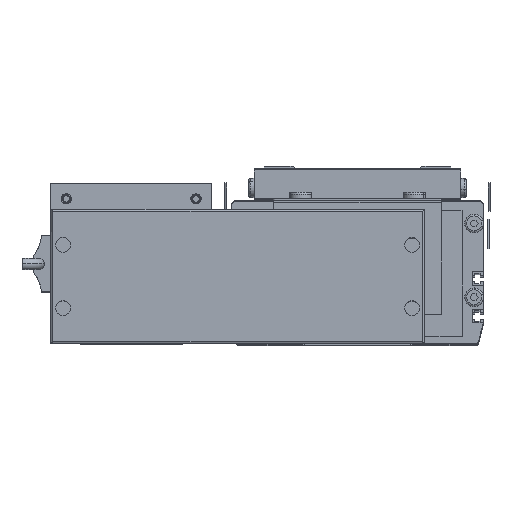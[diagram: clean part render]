
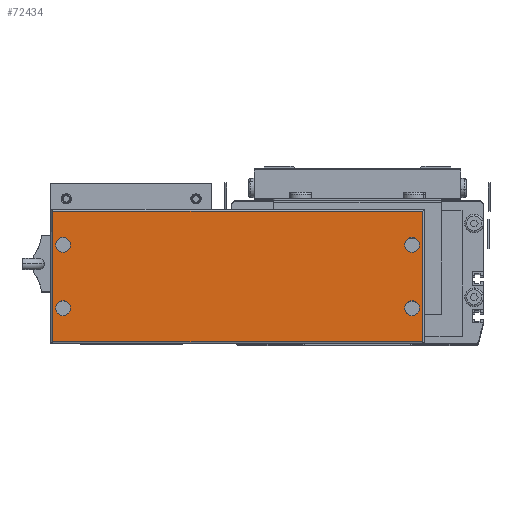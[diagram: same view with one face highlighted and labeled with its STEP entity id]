
A CAD part, top view. The second image highlights one B-rep face of the part: STEP entity #72434.
In plain terms, the highlighted planar face has unit normal (0, 0, 1).
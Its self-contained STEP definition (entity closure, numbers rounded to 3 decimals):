
#58068 = CARTESIAN_POINT ( 'NONE',  ( -161.75, 53., 44. ) ) ;
#58168 = CARTESIAN_POINT ( 'NONE',  ( -153.75, 19., 44. ) ) ;
#58497 = DIRECTION ( 'NONE',  ( 1., 0., 0. ) ) ;
#58499 = DIRECTION ( 'NONE',  ( 0., 0., 1. ) ) ;
#58500 = AXIS2_PLACEMENT_3D ( 'NONE', #58515, #58499, #58497 ) ;
#58502 = CIRCLE ( 'NONE', #58500, 4. ) ;
#58504 = CARTESIAN_POINT ( 'NONE',  ( -153.75, 53., 44. ) ) ;
#58515 = CARTESIAN_POINT ( 'NONE',  ( -157.75, 19., 44. ) ) ;
#58789 = DIRECTION ( 'NONE',  ( 1., 0., 0. ) ) ;
#58790 = DIRECTION ( 'NONE',  ( 0., 0., 1. ) ) ;
#58986 = CARTESIAN_POINT ( 'NONE',  ( -157.75, 53., 44. ) ) ;
#59043 = CIRCLE ( 'NONE', #59061, 4. ) ;
#59061 = AXIS2_PLACEMENT_3D ( 'NONE', #58986, #58790, #58789 ) ;
#59277 = CARTESIAN_POINT ( 'NONE',  ( -161.75, 19., 44. ) ) ;
#59339 = CARTESIAN_POINT ( 'NONE',  ( 33.25, 53., 44. ) ) ;
#59346 = CARTESIAN_POINT ( 'NONE',  ( 25.25, 53., 44. ) ) ;
#59406 = CARTESIAN_POINT ( 'NONE',  ( 33.25, 19., 44. ) ) ;
#59424 = CARTESIAN_POINT ( 'NONE',  ( 29.25, 19., 44. ) ) ;
#59467 = CARTESIAN_POINT ( 'NONE',  ( 25.25, 19., 44. ) ) ;
#59486 = DIRECTION ( 'NONE',  ( 1., 0., 0. ) ) ;
#59487 = DIRECTION ( 'NONE',  ( 0., 0., 1. ) ) ;
#59906 = AXIS2_PLACEMENT_3D ( 'NONE', #59424, #59487, #59486 ) ;
#59924 = CIRCLE ( 'NONE', #59906, 4. ) ;
#60910 = CARTESIAN_POINT ( 'NONE',  ( 29.25, 53., 44. ) ) ;
#60932 = DIRECTION ( 'NONE',  ( 0., 0., 1. ) ) ;
#60935 = AXIS2_PLACEMENT_3D ( 'NONE', #60910, #60932, #61124 ) ;
#60937 = CIRCLE ( 'NONE', #60935, 4. ) ;
#61124 = DIRECTION ( 'NONE',  ( 1., 0., 0. ) ) ;
#72387 = EDGE_CURVE ( 'NONE', #106308, #106310, #87676, .T. ) ;
#72397 = ORIENTED_EDGE ( 'NONE', *, *, #73003, .T. ) ;
#72399 = VERTEX_POINT ( 'NONE', #87730 ) ;
#72401 = EDGE_CURVE ( 'NONE', #106195, #106179, #87449, .T. ) ;
#72402 = VERTEX_POINT ( 'NONE', #87447 ) ;
#72404 = ORIENTED_EDGE ( 'NONE', *, *, #72401, .F. ) ;
#72407 = EDGE_CURVE ( 'NONE', #72980, #72402, #87791, .T. ) ;
#72425 = EDGE_LOOP ( 'NONE', ( #72437, #72436 ) ) ;
#72430 = EDGE_LOOP ( 'NONE', ( #72432, #72442 ) ) ;
#72432 = ORIENTED_EDGE ( 'NONE', *, *, #72454, .F. ) ;
#72434 = ADVANCED_FACE ( 'NONE', ( #87731, #87692, #87697, #87696, #87646 ), #87833, .T. ) ;
#72436 = ORIENTED_EDGE ( 'NONE', *, *, #106280, .F. ) ;
#72437 = ORIENTED_EDGE ( 'NONE', *, *, #72453, .F. ) ;
#72442 = ORIENTED_EDGE ( 'NONE', *, *, #106140, .F. ) ;
#72453 = EDGE_CURVE ( 'NONE', #106141, #106138, #87619, .T. ) ;
#72454 = EDGE_CURVE ( 'NONE', #106156, #106232, #87653, .T. ) ;
#72457 = EDGE_LOOP ( 'NONE', ( #72982, #72706 ) ) ;
#72633 = EDGE_CURVE ( 'NONE', #72402, #72399, #87857, .T. ) ;
#72699 = ORIENTED_EDGE ( 'NONE', *, *, #72865, .T. ) ;
#72701 = VERTEX_POINT ( 'NONE', #88543 ) ;
#72706 = ORIENTED_EDGE ( 'NONE', *, *, #106336, .F. ) ;
#72791 = ORIENTED_EDGE ( 'NONE', *, *, #106495, .F. ) ;
#72865 = EDGE_CURVE ( 'NONE', #72399, #72701, #88550, .T. ) ;
#72884 = ORIENTED_EDGE ( 'NONE', *, *, #72407, .T. ) ;
#72952 = EDGE_LOOP ( 'NONE', ( #72404, #72791 ) ) ;
#72980 = VERTEX_POINT ( 'NONE', #88831 ) ;
#72982 = ORIENTED_EDGE ( 'NONE', *, *, #72387, .F. ) ;
#72985 = ORIENTED_EDGE ( 'NONE', *, *, #72633, .T. ) ;
#73003 = EDGE_CURVE ( 'NONE', #72701, #72980, #88533, .T. ) ;
#73006 = EDGE_LOOP ( 'NONE', ( #72884, #72985, #72699, #72397 ) ) ;
#87442 = DIRECTION ( 'NONE',  ( 1., 0., 0. ) ) ;
#87444 = DIRECTION ( 'NONE',  ( 0., 0., 1. ) ) ;
#87445 = CARTESIAN_POINT ( 'NONE',  ( 29.25, 53., 44. ) ) ;
#87446 = AXIS2_PLACEMENT_3D ( 'NONE', #87445, #87444, #87442 ) ;
#87447 = CARTESIAN_POINT ( 'NONE',  ( 34.75, 1., 44. ) ) ;
#87449 = CIRCLE ( 'NONE', #87446, 4. ) ;
#87488 = CARTESIAN_POINT ( 'NONE',  ( 29.25, 19., 44. ) ) ;
#87580 = DIRECTION ( 'NONE',  ( 1., 0., 0. ) ) ;
#87583 = DIRECTION ( 'NONE',  ( 0., 0., 1. ) ) ;
#87590 = AXIS2_PLACEMENT_3D ( 'NONE', #87608, #87583, #87580 ) ;
#87591 = DIRECTION ( 'NONE',  ( 1., 0., 0. ) ) ;
#87593 = DIRECTION ( 'NONE',  ( 0., 0., 1. ) ) ;
#87596 = CARTESIAN_POINT ( 'NONE',  ( -157.75, 53., 44. ) ) ;
#87598 = AXIS2_PLACEMENT_3D ( 'NONE', #87596, #87593, #87591 ) ;
#87608 = CARTESIAN_POINT ( 'NONE',  ( -157.75, 19., 44. ) ) ;
#87619 = CIRCLE ( 'NONE', #87598, 4. ) ;
#87631 = AXIS2_PLACEMENT_3D ( 'NONE', #87675, #87674, #87672 ) ;
#87646 = FACE_OUTER_BOUND ( 'NONE', #73006, .T. ) ;
#87653 = CIRCLE ( 'NONE', #87590, 4. ) ;
#87672 = DIRECTION ( 'NONE',  ( 1., 0., 0. ) ) ;
#87674 = DIRECTION ( 'NONE',  ( 0., 0., 1. ) ) ;
#87675 = CARTESIAN_POINT ( 'NONE',  ( -164.25, 0., 44. ) ) ;
#87676 = CIRCLE ( 'NONE', #87718, 4. ) ;
#87692 = FACE_BOUND ( 'NONE', #72430, .T. ) ;
#87696 = FACE_BOUND ( 'NONE', #72952, .T. ) ;
#87697 = FACE_BOUND ( 'NONE', #72457, .T. ) ;
#87718 = AXIS2_PLACEMENT_3D ( 'NONE', #87488, #87734, #87733 ) ;
#87729 = CARTESIAN_POINT ( 'NONE',  ( 35.75, 1., 44. ) ) ;
#87730 = CARTESIAN_POINT ( 'NONE',  ( 34.75, 71., 44. ) ) ;
#87731 = FACE_BOUND ( 'NONE', #72425, .T. ) ;
#87733 = DIRECTION ( 'NONE',  ( 1., 0., 0. ) ) ;
#87734 = DIRECTION ( 'NONE',  ( 0., 0., 1. ) ) ;
#87791 = LINE ( 'NONE', #87729, #87838 ) ;
#87833 = PLANE ( 'NONE',  #87631 ) ;
#87837 = DIRECTION ( 'NONE',  ( 1., 0., 0. ) ) ;
#87838 = VECTOR ( 'NONE', #87837, 1000. ) ;
#87851 = DIRECTION ( 'NONE',  ( 0., 1., 0. ) ) ;
#87853 = VECTOR ( 'NONE', #87851, 1000. ) ;
#87856 = CARTESIAN_POINT ( 'NONE',  ( 34.75, 72., 44. ) ) ;
#87857 = LINE ( 'NONE', #87856, #87853 ) ;
#88518 = DIRECTION ( 'NONE',  ( 0., -1., 0. ) ) ;
#88519 = VECTOR ( 'NONE', #88518, 1000. ) ;
#88533 = LINE ( 'NONE', #88853, #88519 ) ;
#88543 = CARTESIAN_POINT ( 'NONE',  ( -163.25, 71., 44. ) ) ;
#88549 = CARTESIAN_POINT ( 'NONE',  ( -164.25, 71., 44. ) ) ;
#88550 = LINE ( 'NONE', #88549, #88575 ) ;
#88574 = DIRECTION ( 'NONE',  ( -1., 0., 0. ) ) ;
#88575 = VECTOR ( 'NONE', #88574, 1000. ) ;
#88831 = CARTESIAN_POINT ( 'NONE',  ( -163.25, 1., 44. ) ) ;
#88853 = CARTESIAN_POINT ( 'NONE',  ( -163.25, 0., 44. ) ) ;
#106138 = VERTEX_POINT ( 'NONE', #58068 ) ;
#106140 = EDGE_CURVE ( 'NONE', #106232, #106156, #58502, .T. ) ;
#106141 = VERTEX_POINT ( 'NONE', #58504 ) ;
#106156 = VERTEX_POINT ( 'NONE', #58168 ) ;
#106179 = VERTEX_POINT ( 'NONE', #59346 ) ;
#106195 = VERTEX_POINT ( 'NONE', #59339 ) ;
#106232 = VERTEX_POINT ( 'NONE', #59277 ) ;
#106280 = EDGE_CURVE ( 'NONE', #106138, #106141, #59043, .T. ) ;
#106308 = VERTEX_POINT ( 'NONE', #59406 ) ;
#106310 = VERTEX_POINT ( 'NONE', #59467 ) ;
#106336 = EDGE_CURVE ( 'NONE', #106310, #106308, #59924, .T. ) ;
#106495 = EDGE_CURVE ( 'NONE', #106179, #106195, #60937, .T. ) ;
